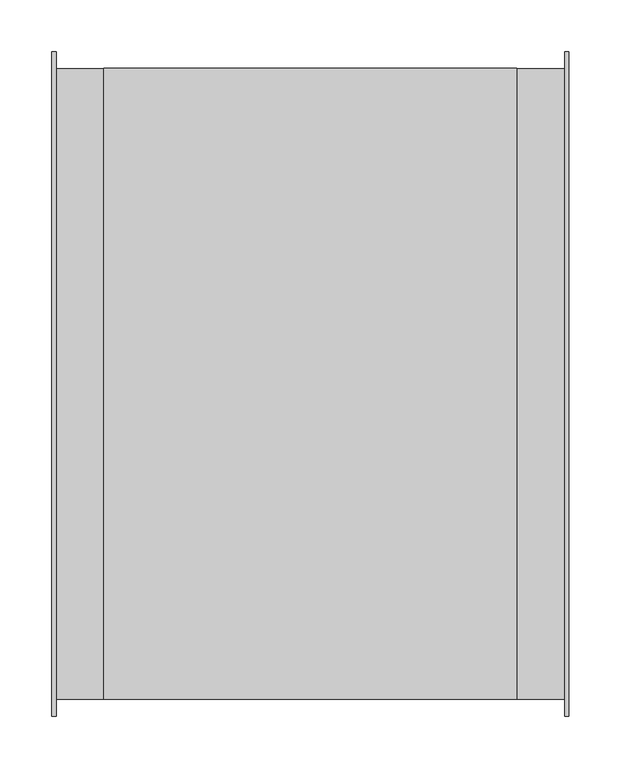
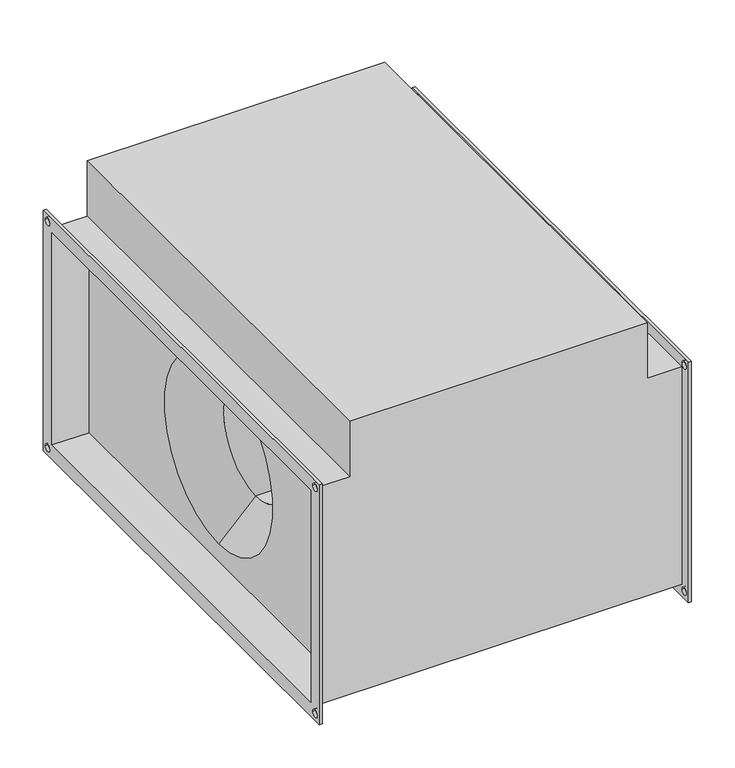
"""IFC4 building model written with IfcOpenShell, lengths in millimetres: proxy geometry, СВ_Вентилятор_КанальныйПрямоугольный_200-1000_SVPS : SVPS-600x300/25.2D."""

from ifc_helpers import new_model, si_unit, frame, origin, place, context, project, spatial, polyline, circle_curve, source, transform, mapped, element, save
from ifc_brep_helpers import plane_surface, revolved_surface, advanced_brep


def mechanical_equipment_2d692213(model_context):
    return source(origin(), model_context, "Body", "AdvancedBrep", [
        advanced_brep(
        [(-245.0, -304.0, 154.0), (-199.0, -304.0, 154.0), (-199.0, 304.0, 154.0), (-245.0, 304.0, 154.0), (199.0, 304.0, 232.0), (199.0, -304.0, 232.0), (199.0, -304.0, 154.0), (199.0, 304.0, 154.0), (199.0, 300.0, -150.0), (199.0, 300.0, 150.0), (199.0, -300.0, 150.0), (199.0, -300.0, -150.0), (199.0, 0.0, 125.0), (199.0, 0.0, -125.0), (-199.0, 300.0, 150.0), (-199.0, 300.0, -150.0), (-199.0, -300.0, -150.0), (-199.0, -300.0, 150.0), (-199.0, 0.0, -125.0), (-199.0, 0.0, 125.0), (-199.0, -304.0, 232.0), (-199.0, 304.0, 232.0), (-245.0, -304.0, -154.0), (245.0, -304.0, -154.0), (245.0, -304.0, 154.0), (-245.0, 304.0, -154.0), (245.0, 304.0, -154.0), (245.0, 304.0, 154.0), (149.0, 0.0, -75.0), (149.0, 0.0, 75.0), (-149.0, 0.0, 75.0), (-149.0, 0.0, -75.0), (-249.0, -320.0, 170.0), (-249.0, 320.0, 170.0), (-249.0, 320.0, -170.0), (-249.0, -320.0, -170.0), (-249.0, -300.0, 150.0), (-249.0, -300.0, -150.0), (-249.0, 300.0, -150.0), (-249.0, 300.0, 150.0), (-249.0, 305.0, 160.0), (-249.0, 315.0, 160.0), (-249.0, -315.0, 160.0), (-249.0, -305.0, 160.0), (-249.0, -315.0, -160.0), (-249.0, -305.0, -160.0), (-249.0, 305.0, -160.0), (-249.0, 315.0, -160.0), (-245.0, -320.0, 170.0), (-245.0, -320.0, -170.0), (-245.0, 320.0, -170.0), (-245.0, 320.0, 170.0), (-245.0, 315.0, 160.0), (-245.0, 305.0, 160.0), (-245.0, -305.0, 160.0), (-245.0, -315.0, 160.0), (-245.0, -305.0, -160.0), (-245.0, -315.0, -160.0), (-245.0, 315.0, -160.0), (-245.0, 305.0, -160.0), (245.0, 320.0, 170.0), (245.0, 320.0, -170.0), (245.0, -320.0, -170.0), (245.0, -320.0, 170.0), (245.0, 305.0, 160.0), (245.0, 315.0, 160.0), (245.0, -315.0, 160.0), (245.0, -305.0, 160.0), (245.0, -315.0, -160.0), (245.0, -305.0, -160.0), (245.0, 305.0, -160.0), (245.0, 315.0, -160.0), (249.0, 320.0, 170.0), (249.0, -320.0, 170.0), (249.0, -320.0, -170.0), (249.0, 320.0, -170.0), (249.0, 300.0, 150.0), (249.0, 300.0, -150.0), (249.0, -300.0, -150.0), (249.0, -300.0, 150.0), (249.0, 315.0, 160.0), (249.0, 305.0, 160.0), (249.0, -305.0, 160.0), (249.0, -315.0, 160.0), (249.0, -305.0, -160.0), (249.0, -315.0, -160.0), (249.0, 315.0, -160.0), (249.0, 305.0, -160.0)],
        [
            (0, 1),
            (1, 2),
            (2, 3),
            (3, 0),
            (4, 5),
            (5, 6),
            (6, 7),
            (7, 4),
            (8, 9),
            (9, 10),
            (10, 11),
            (11, 8),
            (12, 13, circle_curve(frame((199.0, 0.0, 0.0), z_axis=(-1.0, 0.0, 0.0), x_axis=(0.0, 0.0, 1.0)), 125.0)),
            (13, 12, circle_curve(frame((199.0, 0.0, 0.0), z_axis=(-1.0, 0.0, 0.0), x_axis=(0.0, 0.0, 1.0)), 125.0)),
            (14, 15),
            (15, 16),
            (16, 17),
            (17, 14),
            (18, 19, circle_curve(frame((-199.0, 0.0, 0.0), z_axis=(1.0, 0.0, 0.0), x_axis=(0.0, 0.0, 1.0)), 125.0)),
            (19, 18, circle_curve(frame((-199.0, 0.0, 0.0), z_axis=(1.0, 0.0, 0.0), x_axis=(0.0, 0.0, 1.0)), 125.0)),
            (20, 21),
            (21, 2),
            (1, 20),
            (5, 20),
            (0, 22),
            (22, 23),
            (23, 24),
            (24, 6),
            (22, 25),
            (25, 26),
            (26, 23),
            (21, 4),
            (7, 27),
            (27, 26),
            (25, 3),
            (24, 27),
            (28, 13),
            (12, 29),
            (29, 28, circle_curve(frame((149.0, 0.0, 0.0), z_axis=(-1.0, 0.0, 0.0), x_axis=(0.0, 0.0, 1.0)), 75.0)),
            (28, 29, circle_curve(frame((149.0, 0.0, 0.0), z_axis=(-1.0, 0.0, 0.0), x_axis=(0.0, 0.0, 1.0)), 75.0)),
            (29, 30),
            (30, 31, circle_curve(frame((-149.0, 0.0, 0.0), z_axis=(-1.0, 0.0, 0.0), x_axis=(0.0, 0.0, 1.0)), 75.0)),
            (31, 28),
            (31, 30, circle_curve(frame((-149.0, 0.0, 0.0), z_axis=(-1.0, 0.0, 0.0), x_axis=(0.0, 0.0, 1.0)), 75.0)),
            (30, 19),
            (18, 31),
            (32, 33),
            (33, 34),
            (34, 35),
            (35, 32),
            (36, 37),
            (37, 38),
            (38, 39),
            (39, 36),
            (40, 41, circle_curve(frame((-249.0, 310.0, 160.0), z_axis=(1.0, 0.0, 0.0), x_axis=(0.0, 1.0, 0.0)), 5.0)),
            (41, 40, circle_curve(frame((-249.0, 310.0, 160.0), z_axis=(1.0, 0.0, 0.0), x_axis=(0.0, 1.0, 0.0)), 5.0)),
            (42, 43, circle_curve(frame((-249.0, -310.0, 160.0), z_axis=(1.0, 0.0, 0.0), x_axis=(0.0, 1.0, 0.0)), 5.0)),
            (43, 42, circle_curve(frame((-249.0, -310.0, 160.0), z_axis=(1.0, 0.0, 0.0), x_axis=(0.0, 1.0, 0.0)), 5.0)),
            (44, 45, circle_curve(frame((-249.0, -310.0, -160.0), z_axis=(1.0, 0.0, 0.0), x_axis=(0.0, 1.0, 0.0)), 5.0)),
            (45, 44, circle_curve(frame((-249.0, -310.0, -160.0), z_axis=(1.0, 0.0, 0.0), x_axis=(0.0, 1.0, 0.0)), 5.0)),
            (46, 47, circle_curve(frame((-249.0, 310.0, -160.0), z_axis=(1.0, 0.0, 0.0), x_axis=(0.0, 1.0, 0.0)), 5.0)),
            (47, 46, circle_curve(frame((-249.0, 310.0, -160.0), z_axis=(1.0, 0.0, 0.0), x_axis=(0.0, 1.0, 0.0)), 5.0)),
            (48, 49),
            (49, 50),
            (50, 51),
            (51, 48),
            (52, 53, circle_curve(frame((-245.0, 310.0, 160.0), z_axis=(-1.0, 0.0, 0.0), x_axis=(0.0, 1.0, 0.0)), 5.0)),
            (53, 52, circle_curve(frame((-245.0, 310.0, 160.0), z_axis=(-1.0, 0.0, 0.0), x_axis=(0.0, 1.0, 0.0)), 5.0)),
            (54, 55, circle_curve(frame((-245.0, -310.0, 160.0), z_axis=(-1.0, 0.0, 0.0), x_axis=(0.0, 1.0, 0.0)), 5.0)),
            (55, 54, circle_curve(frame((-245.0, -310.0, 160.0), z_axis=(-1.0, 0.0, 0.0), x_axis=(0.0, 1.0, 0.0)), 5.0)),
            (56, 57, circle_curve(frame((-245.0, -310.0, -160.0), z_axis=(-1.0, 0.0, 0.0), x_axis=(0.0, 1.0, 0.0)), 5.0)),
            (57, 56, circle_curve(frame((-245.0, -310.0, -160.0), z_axis=(-1.0, 0.0, 0.0), x_axis=(0.0, 1.0, 0.0)), 5.0)),
            (58, 59, circle_curve(frame((-245.0, 310.0, -160.0), z_axis=(-1.0, 0.0, 0.0), x_axis=(0.0, 1.0, 0.0)), 5.0)),
            (59, 58, circle_curve(frame((-245.0, 310.0, -160.0), z_axis=(-1.0, 0.0, 0.0), x_axis=(0.0, 1.0, 0.0)), 5.0)),
            (35, 49),
            (48, 32),
            (34, 50),
            (33, 51),
            (60, 61),
            (61, 62),
            (62, 63),
            (63, 60),
            (64, 65, circle_curve(frame((245.0, 310.0, 160.0), z_axis=(1.0, 0.0, 0.0), x_axis=(0.0, 1.0, 0.0)), 5.0)),
            (65, 64, circle_curve(frame((245.0, 310.0, 160.0), z_axis=(1.0, 0.0, 0.0), x_axis=(0.0, 1.0, 0.0)), 5.0)),
            (66, 67, circle_curve(frame((245.0, -310.0, 160.0), z_axis=(1.0, 0.0, 0.0), x_axis=(0.0, 1.0, 0.0)), 5.0)),
            (67, 66, circle_curve(frame((245.0, -310.0, 160.0), z_axis=(1.0, 0.0, 0.0), x_axis=(0.0, 1.0, 0.0)), 5.0)),
            (68, 69, circle_curve(frame((245.0, -310.0, -160.0), z_axis=(1.0, 0.0, 0.0), x_axis=(0.0, 1.0, 0.0)), 5.0)),
            (69, 68, circle_curve(frame((245.0, -310.0, -160.0), z_axis=(1.0, 0.0, 0.0), x_axis=(0.0, 1.0, 0.0)), 5.0)),
            (70, 71, circle_curve(frame((245.0, 310.0, -160.0), z_axis=(1.0, 0.0, 0.0), x_axis=(0.0, 1.0, 0.0)), 5.0)),
            (71, 70, circle_curve(frame((245.0, 310.0, -160.0), z_axis=(1.0, 0.0, 0.0), x_axis=(0.0, 1.0, 0.0)), 5.0)),
            (72, 73),
            (73, 74),
            (74, 75),
            (75, 72),
            (76, 77),
            (77, 78),
            (78, 79),
            (79, 76),
            (80, 81, circle_curve(frame((249.0, 310.0, 160.0), z_axis=(-1.0, 0.0, 0.0), x_axis=(0.0, 1.0, 0.0)), 5.0)),
            (81, 80, circle_curve(frame((249.0, 310.0, 160.0), z_axis=(-1.0, 0.0, 0.0), x_axis=(0.0, 1.0, 0.0)), 5.0)),
            (82, 83, circle_curve(frame((249.0, -310.0, 160.0), z_axis=(-1.0, 0.0, 0.0), x_axis=(0.0, 1.0, 0.0)), 5.0)),
            (83, 82, circle_curve(frame((249.0, -310.0, 160.0), z_axis=(-1.0, 0.0, 0.0), x_axis=(0.0, 1.0, 0.0)), 5.0)),
            (84, 85, circle_curve(frame((249.0, -310.0, -160.0), z_axis=(-1.0, 0.0, 0.0), x_axis=(0.0, 1.0, 0.0)), 5.0)),
            (85, 84, circle_curve(frame((249.0, -310.0, -160.0), z_axis=(-1.0, 0.0, 0.0), x_axis=(0.0, 1.0, 0.0)), 5.0)),
            (86, 87, circle_curve(frame((249.0, 310.0, -160.0), z_axis=(-1.0, 0.0, 0.0), x_axis=(0.0, 1.0, 0.0)), 5.0)),
            (87, 86, circle_curve(frame((249.0, 310.0, -160.0), z_axis=(-1.0, 0.0, 0.0), x_axis=(0.0, 1.0, 0.0)), 5.0)),
            (63, 73),
            (72, 60),
            (62, 74),
            (61, 75),
            (39, 14),
            (17, 36),
            (38, 15),
            (37, 16),
            (76, 9),
            (8, 77),
            (11, 78),
            (10, 79),
            (40, 53),
            (52, 41),
            (64, 81),
            (80, 65),
            (42, 55),
            (54, 43),
            (66, 83),
            (82, 67),
            (44, 57),
            (56, 45),
            (68, 85),
            (84, 69),
            (46, 59),
            (58, 47),
            (70, 87),
            (86, 71),
        ],
        [
            plane_surface(frame((-199.0, 304.0, 154.0), z_axis=(0.0, 0.0, 1.0), x_axis=(-1.0, 0.0, 0.0))),
            plane_surface(frame((199.0, -304.0, 232.0), z_axis=(1.0, 0.0, 0.0), x_axis=(0.0, 0.0, -1.0))),
            plane_surface(frame((-199.0, -304.0, 232.0), z_axis=(-1.0, 0.0, 0.0), x_axis=(0.0, 0.0, 1.0))),
            plane_surface(frame((199.0, -304.0, 232.0), z_axis=(0.0, -1.0, 0.0), x_axis=(-1.0, 0.0, 0.0))),
            plane_surface(frame((199.0, -304.0, -154.0), z_axis=(0.0, 0.0, -1.0), x_axis=(-1.0, 0.0, 0.0))),
            plane_surface(frame((199.0, 304.0, -154.0), z_axis=(0.0, 1.0, 0.0), x_axis=(-1.0, 0.0, 0.0))),
            plane_surface(frame((199.0, 304.0, 232.0), z_axis=(0.0, 0.0, 1.0), x_axis=(-1.0, 0.0, 0.0))),
            plane_surface(frame((245.0, 304.0, 154.0), z_axis=(0.0, 0.0, 1.0), x_axis=(-1.0, 0.0, 0.0))),
            revolved_surface(polyline([(149.0, 0.0, 75.0), (199.0, 0.0, 125.0)]), (-636.0617897, 0.0, 0.0), (-1.0, 0.0, 0.0)),
            revolved_surface(polyline([(-149.0, 0.0, 75.0), (149.0, 0.0, 75.0)]), (-636.0617897, 0.0, 0.0), (-1.0, 0.0, 0.0)),
            revolved_surface(polyline([(-199.0, 0.0, 125.0), (-149.0, 0.0, 75.0)]), (-636.0617897, 0.0, 0.0), (-1.0, 0.0, 0.0)),
            plane_surface(frame((-249.0, -320.0, 170.0), z_axis=(-1.0, 0.0, 0.0), x_axis=(0.0, 0.0, 1.0))),
            plane_surface(frame((-245.0, -320.0, 170.0), z_axis=(1.0, 0.0, 0.0), x_axis=(0.0, 0.0, -1.0))),
            plane_surface(frame((-245.0, -320.0, 170.0), z_axis=(0.0, -1.0, 0.0), x_axis=(-1.0, 0.0, 0.0))),
            plane_surface(frame((-245.0, -320.0, -170.0), z_axis=(0.0, 0.0, -1.0), x_axis=(-1.0, 0.0, 0.0))),
            plane_surface(frame((-245.0, 320.0, -170.0), z_axis=(0.0, 1.0, 0.0), x_axis=(-1.0, 0.0, 0.0))),
            plane_surface(frame((-245.0, 320.0, 170.0), z_axis=(0.0, 0.0, 1.0), x_axis=(-1.0, 0.0, 0.0))),
            plane_surface(frame((245.0, 300.0, -150.0), z_axis=(-1.0, 0.0, 0.0), x_axis=(0.0, 0.0, 1.0))),
            plane_surface(frame((249.0, 300.0, -150.0), z_axis=(1.0, 0.0, 0.0), x_axis=(0.0, 0.0, -1.0))),
            plane_surface(frame((249.0, 320.0, 170.0), z_axis=(0.0, 0.0, 1.0), x_axis=(-1.0, 0.0, 0.0))),
            plane_surface(frame((249.0, -320.0, 170.0), z_axis=(0.0, -1.0, 0.0), x_axis=(-1.0, 0.0, 0.0))),
            plane_surface(frame((249.0, -320.0, -170.0), z_axis=(0.0, 0.0, -1.0), x_axis=(-1.0, 0.0, 0.0))),
            plane_surface(frame((249.0, 320.0, -170.0), z_axis=(0.0, 1.0, 0.0), x_axis=(-1.0, 0.0, 0.0))),
            plane_surface(frame((-245.0, -300.0, 150.0), z_axis=(0.0, 0.0, -1.0), x_axis=(-1.0, 0.0, 0.0))),
            plane_surface(frame((-245.0, 300.0, 150.0), z_axis=(0.0, -1.0, 0.0), x_axis=(-1.0, 0.0, 0.0))),
            plane_surface(frame((-245.0, 300.0, -150.0), z_axis=(0.0, 0.0, 1.0), x_axis=(-1.0, 0.0, 0.0))),
            plane_surface(frame((-245.0, -300.0, -150.0), z_axis=(0.0, 1.0, 0.0), x_axis=(-1.0, 0.0, 0.0))),
            plane_surface(frame((249.0, 300.0, 150.0), z_axis=(0.0, -1.0, 0.0), x_axis=(-1.0, 0.0, 0.0))),
            plane_surface(frame((249.0, 300.0, -150.0), z_axis=(0.0, 0.0, 1.0), x_axis=(-1.0, 0.0, 0.0))),
            plane_surface(frame((249.0, -300.0, -150.0), z_axis=(0.0, 1.0, 0.0), x_axis=(-1.0, 0.0, 0.0))),
            plane_surface(frame((249.0, -300.0, 150.0), z_axis=(0.0, 0.0, -1.0), x_axis=(-1.0, 0.0, 0.0))),
            revolved_surface(polyline([(-245.0, 315.0, 160.0), (-249.0, 315.0, 160.0)]), (-249.0, 310.0, 160.0), (1.0, 0.0, 0.0)),
            revolved_surface(polyline([(249.0, 315.0, 160.0), (245.0, 315.0, 160.0)]), (-249.0, 310.0, 160.0), (1.0, 0.0, 0.0)),
            revolved_surface(polyline([(-245.0, -305.0, 160.0), (-249.0, -305.0, 160.0)]), (0.0, -310.0, 160.0), (1.0, 0.0, 0.0)),
            revolved_surface(polyline([(249.0, -305.0, 160.0), (245.0, -305.0, 160.0)]), (0.0, -310.0, 160.0), (1.0, 0.0, 0.0)),
            revolved_surface(polyline([(-245.0, -305.0, -160.0), (-249.0, -305.0, -160.0)]), (0.0, -310.0, -160.0), (1.0, 0.0, 0.0)),
            revolved_surface(polyline([(249.0, -305.0, -160.0), (245.0, -305.0, -160.0)]), (0.0, -310.0, -160.0), (1.0, 0.0, 0.0)),
            revolved_surface(polyline([(-245.0, 315.0, -160.0), (-249.0, 315.0, -160.0)]), (0.0, 310.0, -160.0), (1.0, 0.0, 0.0)),
            revolved_surface(polyline([(249.0, 315.0, -160.0), (245.0, 315.0, -160.0)]), (0.0, 310.0, -160.0), (1.0, 0.0, 0.0)),
        ],
        [
            (0, [[1, 2, 3, 4]]),
            (1, [[5, 6, 7, 8]]),
            (1, [[9, 10, 11, 12], [13, 14]]),
            (2, [[15, 16, 17, 18], [19, 20]]),
            (2, [[21, 22, -2, 23]]),
            (3, [[24, -23, -1, 25, 26, 27, 28, -6]]),
            (4, [[-26, 29, 30, 31]]),
            (5, [[32, -8, 33, 34, -30, 35, -3, -22]]),
            (6, [[-5, -32, -21, -24]]),
            (7, [[-28, 36, -33, -7]]),
            (8, [[37, -13, 38, 39]]),
            (8, [[-37, 40, -38, -14]]),
            (9, [[-39, 41, 42, 43]]),
            (9, [[-40, -43, 44, -41]]),
            (10, [[-42, 45, -19, 46]]),
            (10, [[-44, -46, -20, -45]]),
            (11, [[47, 48, 49, 50], [51, 52, 53, 54], [55, 56], [57, 58], [59, 60], [61, 62]]),
            (12, [[63, 64, 65, 66], [-25, -4, -35, -29], [67, 68], [69, 70], [71, 72], [73, 74]]),
            (13, [[-50, 75, -63, 76]]),
            (14, [[-49, 77, -64, -75]]),
            (15, [[-48, 78, -65, -77]]),
            (16, [[-47, -76, -66, -78]]),
            (17, [[79, 80, 81, 82], [-27, -31, -34, -36], [83, 84], [85, 86], [87, 88], [89, 90]]),
            (18, [[91, 92, 93, 94], [95, 96, 97, 98], [99, 100], [101, 102], [103, 104], [105, 106]]),
            (19, [[-82, 107, -91, 108]]),
            (20, [[-81, 109, -92, -107]]),
            (21, [[-80, 110, -93, -109]]),
            (22, [[-79, -108, -94, -110]]),
            (23, [[-54, 111, -18, 112]]),
            (24, [[-53, 113, -15, -111]]),
            (25, [[-52, 114, -16, -113]]),
            (26, [[-51, -112, -17, -114]]),
            (27, [[-95, 115, -9, 116]]),
            (28, [[-96, -116, -12, 117]]),
            (29, [[-97, -117, -11, 118]]),
            (30, [[-115, -98, -118, -10]]),
            (31, [[119, -67, 120, -55]]),
            (32, [[121, -99, 122, -83]]),
            (31, [[-119, -56, -120, -68]]),
            (32, [[-121, -84, -122, -100]]),
            (33, [[123, -69, 124, -57]]),
            (34, [[125, -101, 126, -85]]),
            (33, [[-123, -58, -124, -70]]),
            (34, [[-125, -86, -126, -102]]),
            (35, [[127, -71, 128, -59]]),
            (36, [[129, -103, 130, -87]]),
            (35, [[-127, -60, -128, -72]]),
            (36, [[-129, -88, -130, -104]]),
            (37, [[131, -73, 132, -61]]),
            (38, [[133, -105, 134, -89]]),
            (37, [[-131, -62, -132, -74]]),
            (38, [[-133, -90, -134, -106]]),
        ],
    ),
    ])


if __name__ == "__main__":
    model = new_model("IFC4")
    model_context = context("Model", 3, world=origin())
    ifc_project = project(units=[si_unit("LENGTHUNIT", "METRE", prefix="MILLI")], contexts=[model_context])
    site = spatial("IfcSite", under=ifc_project)
    building = spatial("IfcBuilding", under=site)
    placement = place(None, origin())
    mechanical_equipment_shape = mechanical_equipment_2d692213(model_context)
    element("IfcBuildingElementProxy", 1, Name="СВ_Вентилятор_КанальныйПрямоугольный_200-1000_SVPS : SVPS-600x300/25.2D", ObjectType="СВ_Вентилятор_КанальныйПрямоугольный_200-1000_SVPS : SVPS-600x300/25.2D", at=placement, inside=building, context=model_context, shape_type="MappedRepresentation", body=[
        mapped(mechanical_equipment_shape, transform((0.0, 0.0, 0.0), x_axis=(1.0, 0.0, 0.0), y_axis=(0.0, 1.0, 0.0), z_axis=(0.0, 0.0, 1.0))),
    ])
    save(model, "model.ifc")
